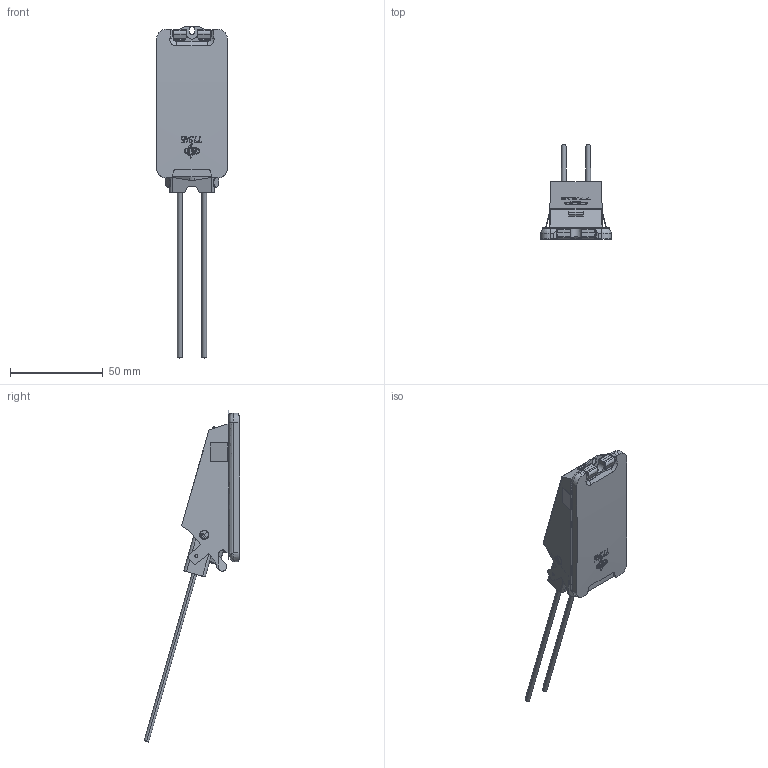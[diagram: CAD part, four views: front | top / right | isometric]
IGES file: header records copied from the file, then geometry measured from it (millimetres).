
Global section: file name: C:\CoreTechnologie\3D-in/01DYL0ZY0D.igs; native system: CT CoreTechnologie 3D Evolution; preprocessor: 2006; date: 1180813.122725; units: millimetre
Bounding box: 38 x 51.57 x 179.12 mm (x, y, z)
Volume: 27510.5 mm3; surface area: 27405.9 mm2
Topology: 6 solids, 6 shells, 728 faces, 1905 edges, 1240 vertices
Faces by surface type: plane 480, revolution 188, bspline 60
